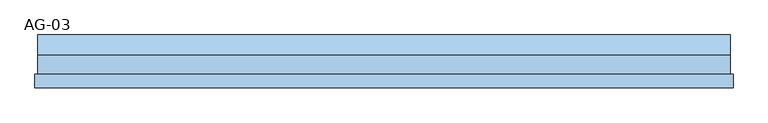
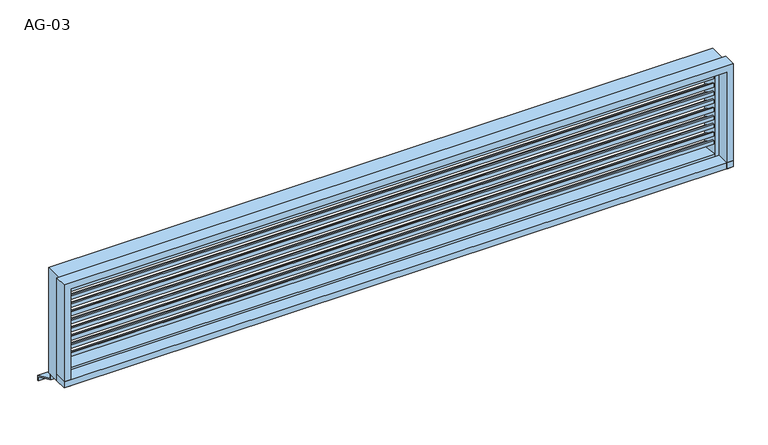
"""IFC4 building model written with IfcOpenShell, lengths in millimetres: window geometry, 営_単窓_ガラリ : AG-03."""

from ifc_helpers import new_model, si_unit, frame, origin, place, context, project, spatial, polyline, outline, extrude, source, transform, mapped, element, save


def ag_03_a886fbff(model_context):
    return source(origin(), model_context, "Body", "SweptSolid", [
        extrude(outline(polyline([(15.0, 1484.9160321), (15.0, 1466.6666667), (10.0, 1466.6666667), (10.0, 1481.6666667), (-35.0, 1501.6666667), (-35.0, 1516.6666667), (-30.0, 1516.6666667), (-30.0, 1504.9160321), (15.0, 1484.9160321)])), frame((-1250.0, 0.0, 0.0), z_axis=(1.0, 0.0, 0.0), x_axis=(0.0, 1.0, 0.0)), (0.0, 0.0, 1.0), 2500.0),
        extrude(outline(polyline([(15.0, 1451.5826988), (15.0, 1433.3333333), (10.0, 1433.3333333), (10.0, 1448.3333333), (-35.0, 1468.3333333), (-35.0, 1483.3333333), (-30.0, 1483.3333333), (-30.0, 1471.5826988), (15.0, 1451.5826988)])), frame((-1250.0, 0.0, 0.0), z_axis=(1.0, 0.0, 0.0), x_axis=(0.0, 1.0, 0.0)), (0.0, 0.0, 1.0), 2500.0),
        extrude(outline(polyline([(15.0, 1418.2493654), (15.0, 1400.0), (10.0, 1400.0), (10.0, 1415.0), (-35.0, 1435.0), (-35.0, 1450.0), (-30.0, 1450.0), (-30.0, 1438.2493654), (15.0, 1418.2493654)])), frame((-1250.0, 0.0, 0.0), z_axis=(1.0, 0.0, 0.0), x_axis=(0.0, 1.0, 0.0)), (0.0, 0.0, 1.0), 2500.0),
        extrude(outline(polyline([(15.0, 1384.9160321), (15.0, 1366.6666667), (10.0, 1366.6666667), (10.0, 1381.6666667), (-35.0, 1401.6666667), (-35.0, 1416.6666667), (-30.0, 1416.6666667), (-30.0, 1404.9160321), (15.0, 1384.9160321)])), frame((-1250.0, 0.0, 0.0), z_axis=(1.0, 0.0, 0.0), x_axis=(0.0, 1.0, 0.0)), (0.0, 0.0, 1.0), 2500.0),
        extrude(outline(polyline([(15.0, 1351.5826988), (15.0, 1333.3333333), (10.0, 1333.3333333), (10.0, 1348.3333333), (-35.0, 1368.3333333), (-35.0, 1383.3333333), (-30.0, 1383.3333333), (-30.0, 1371.5826988), (15.0, 1351.5826988)])), frame((-1250.0, 0.0, 0.0), z_axis=(1.0, 0.0, 0.0), x_axis=(0.0, 1.0, 0.0)), (0.0, 0.0, 1.0), 2500.0),
        extrude(outline(polyline([(15.0, 1318.2493654), (15.0, 1300.0), (10.0, 1300.0), (10.0, 1315.0), (-35.0, 1335.0), (-35.0, 1350.0), (-30.0, 1350.0), (-30.0, 1338.2493654), (15.0, 1318.2493654)])), frame((-1250.0, 0.0, 0.0), z_axis=(1.0, 0.0, 0.0), x_axis=(0.0, 1.0, 0.0)), (0.0, 0.0, 1.0), 2500.0),
        extrude(outline(polyline([(15.0, 1284.9160321), (15.0, 1266.6666667), (10.0, 1266.6666667), (10.0, 1281.6666667), (-35.0, 1301.6666667), (-35.0, 1316.6666667), (-30.0, 1316.6666667), (-30.0, 1304.9160321), (15.0, 1284.9160321)])), frame((-1250.0, 0.0, 0.0), z_axis=(1.0, 0.0, 0.0), x_axis=(0.0, 1.0, 0.0)), (0.0, 0.0, 1.0), 2500.0),
        extrude(outline(polyline([(15.0, 1251.5826988), (15.0, 1233.3333333), (10.0, 1233.3333333), (10.0, 1248.3333333), (-35.0, 1268.3333333), (-35.0, 1283.3333333), (-30.0, 1283.3333333), (-30.0, 1271.5826988), (15.0, 1251.5826988)])), frame((-1250.0, 0.0, 0.0), z_axis=(1.0, 0.0, 0.0), x_axis=(0.0, 1.0, 0.0)), (0.0, 0.0, 1.0), 2500.0),
        extrude(outline(polyline([(15.0, 1518.2493654), (15.0, 1500.0), (10.0, 1500.0), (10.0, 1515.0), (-35.0, 1535.0), (-35.0, 1550.0), (-30.0, 1550.0), (-30.0, 1538.2493654), (15.0, 1518.2493654)])), frame((-1250.0, 0.0, 0.0), z_axis=(1.0, 0.0, 0.0), x_axis=(0.0, 1.0, 0.0)), (0.0, 0.0, 1.0), 2500.0),
        extrude(outline(polyline([(15.0, 1218.2493654), (15.0, 1200.0), (10.0, 1200.0), (10.0, 1215.0), (-35.0, 1235.0), (-35.0, 1250.0), (-30.0, 1250.0), (-30.0, 1238.2493654), (15.0, 1218.2493654)])), frame((-1250.0, 0.0, 0.0), z_axis=(1.0, 0.0, 0.0), x_axis=(0.0, 1.0, 0.0)), (0.0, 0.0, 1.0), 2500.0),
        extrude(outline(polyline([(1290.0, -95.0), (-1290.0, -95.0), (-1290.0, -45.0), (1290.0, -45.0), (1290.0, -95.0)])), frame((0.0, 0.0, 1165.0), z_axis=(0.0, 0.0, 1.0), x_axis=(1.0, 0.0, 0.0)), (0.0, 0.0, 1.0), 25.0),
        extrude(outline(polyline([(15.0, 1135.0), (100.0, 1095.0), (100.0, 1075.0), (95.0014518, 1075.0), (95.0014518, 1091.8262891), (10.0, 1131.8269723), (10.0, 1150.0), (15.0, 1150.0), (15.0, 1135.0)])), frame((-1280.0, 0.0, 0.0), z_axis=(1.0, 0.0, 0.0), x_axis=(0.0, 1.0, 0.0)), (0.0, 0.0, 1.0), 2560.0),
        extrude(outline(polyline([(1165.0, -1290.0), (1165.0, -1265.0), (1560.0, -1265.0), (1560.0, 1265.0), (1165.0, 1265.0), (1165.0, 1290.0), (1585.0, 1290.0), (1585.0, -1290.0), (1165.0, -1290.0)])), frame((0.0, -95.0, 0.0), z_axis=(0.0, 1.0, 0.0), x_axis=(0.0, 0.0, 1.0)), (0.0, 0.0, 1.0), 50.0),
        extrude(outline(polyline([(1150.0, -1280.0), (1150.0, -1250.0), (1550.0, -1250.0), (1550.0, 1250.0), (1150.0, 1250.0), (1150.0, 1280.0), (1580.0, 1280.0), (1580.0, -1280.0), (1150.0, -1280.0)])), frame((0.0, -45.0, 0.0), z_axis=(0.0, 1.0, 0.0), x_axis=(0.0, 0.0, 1.0)), (0.0, 0.0, 1.0), 70.0),
        extrude(outline(polyline([(-45.0, 1150.0), (-45.0, 1200.0), (25.0, 1190.6666667), (25.0, 1150.0), (-45.0, 1150.0)])), frame((-1250.0, 0.0, 0.0), z_axis=(1.0, 0.0, 0.0), x_axis=(0.0, 1.0, 0.0)), (0.0, 0.0, 1.0), 2500.0),
    ])


if __name__ == "__main__":
    model = new_model("IFC4")
    model_context = context("Model", 3, world=origin())
    ifc_project = project(units=[si_unit("LENGTHUNIT", "METRE", prefix="MILLI")], contexts=[model_context])
    site = spatial("IfcSite", under=ifc_project)
    building = spatial("IfcBuilding", under=site)
    placement = place(None, origin())
    ag_03_shape = ag_03_a886fbff(model_context)
    element("IfcWindow", 1, ObjectType="営_単窓_ガラリ : AG-03", at=placement, inside=building, context=model_context, shape_type="MappedRepresentation", body=[
        mapped(ag_03_shape, transform((0.0, 0.0, 0.0), x_axis=(1.0, 0.0, 0.0), y_axis=(0.0, 1.0, 0.0), z_axis=(0.0, 0.0, 1.0))),
    ])
    save(model, "model.ifc")
